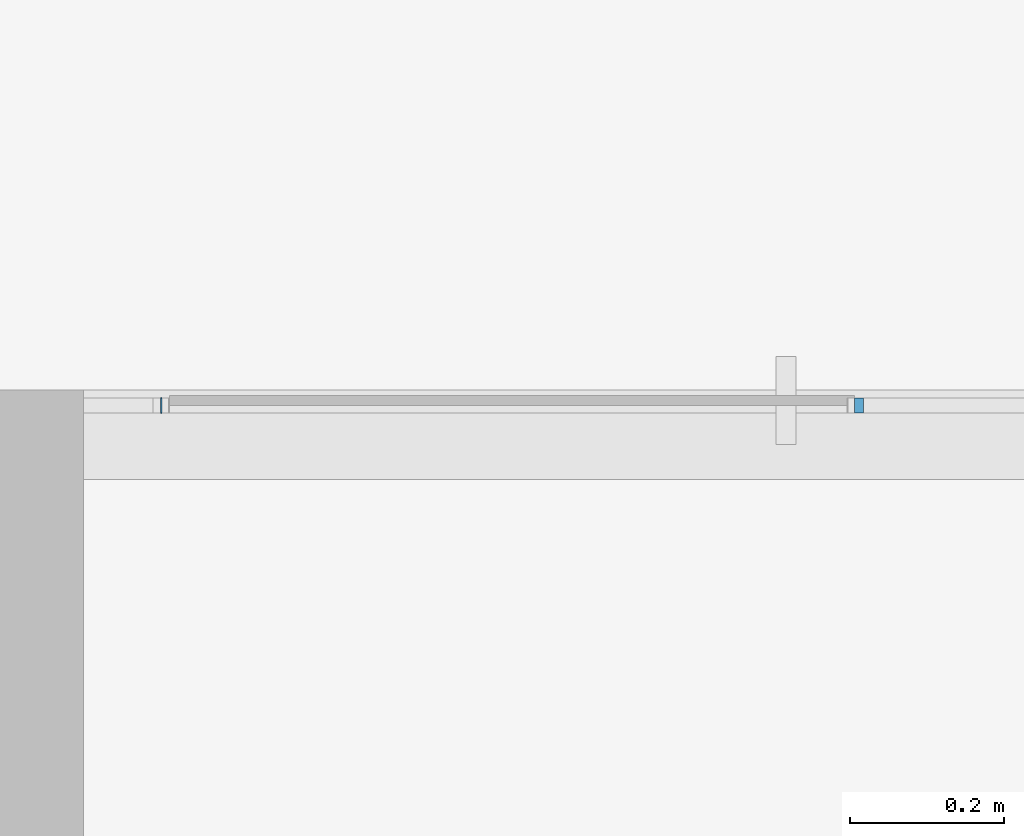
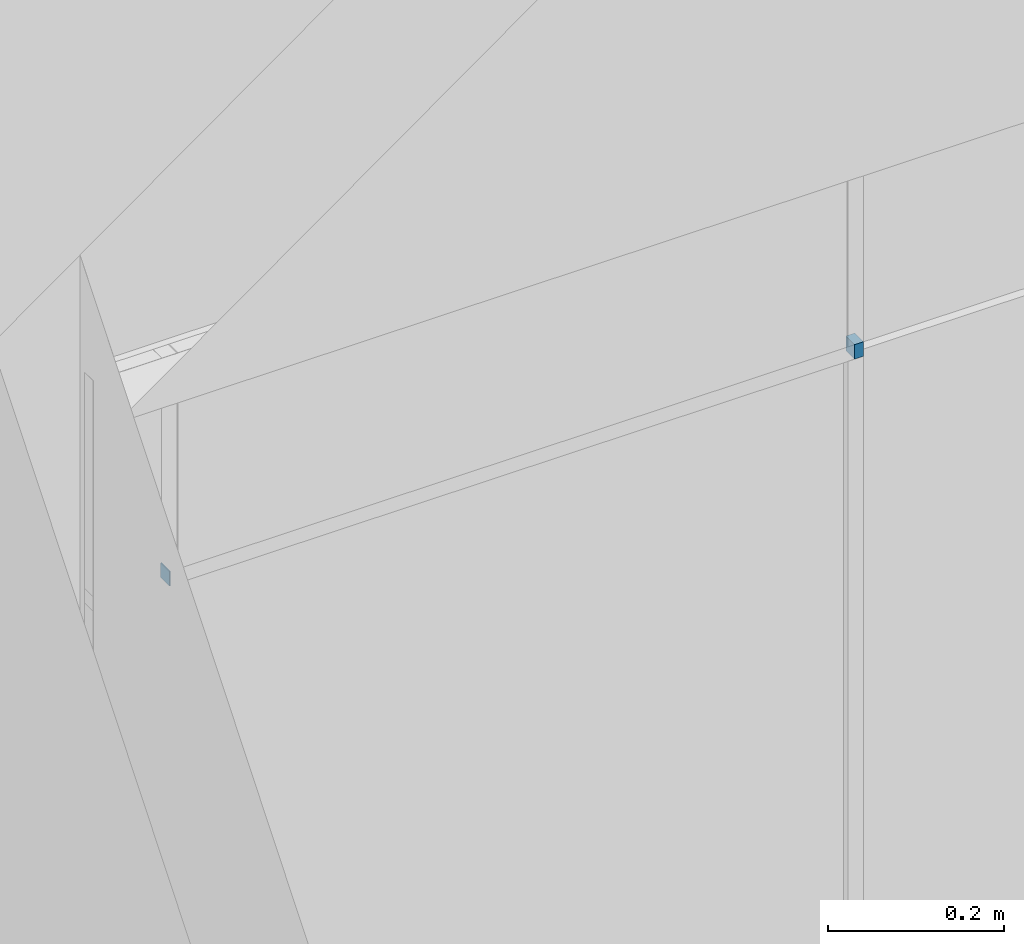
# One storey, part 13 of 66: 2 members, 1 element without a shape of its own.
"""IFC2X3 building model written with IfcOpenShell, lengths in millimetres."""

from ifc_helpers import new_model, entity, si_unit, converted_unit, derived_unit, direction, frame, origin, origin_2d_with_axis, place, context, subcontext, project, spatial, rectangle, extrude, source, transform, mapped, material, type_object, type_shapes, element, aggregate, save


model = new_model("IFC2X3")

# Units and contexts
model_context = context("Model", 3, precision=0.01, world=origin(), true_north=direction((6.12303176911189e-17, 1.0)))
body_context = subcontext(model_context, "Body", "Model", "MODEL_VIEW")
ifc_project = project(units=[si_unit("LENGTHUNIT", "METRE", prefix="MILLI"), si_unit("AREAUNIT", "SQUARE_METRE"), si_unit("VOLUMEUNIT", "CUBIC_METRE"), converted_unit("PLANEANGLEUNIT", "DEGREE", entity("IfcRatioMeasure", 0.0174532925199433), si_unit("PLANEANGLEUNIT", "RADIAN"), dimensions=[0, 0, 0, 0, 0, 0, 0]), si_unit("MASSUNIT", "GRAM", prefix="KILO"), derived_unit("MASSDENSITYUNIT", [(si_unit("MASSUNIT", "GRAM", prefix="KILO"), 1), (si_unit("LENGTHUNIT", "METRE"), -3)]), si_unit("TIMEUNIT", "SECOND"), si_unit("FREQUENCYUNIT", "HERTZ"), si_unit("THERMODYNAMICTEMPERATUREUNIT", "DEGREE_CELSIUS"), derived_unit("THERMALTRANSMITTANCEUNIT", [(si_unit("MASSUNIT", "GRAM", prefix="KILO"), 1), (si_unit("THERMODYNAMICTEMPERATUREUNIT", "KELVIN"), -1), (si_unit("TIMEUNIT", "SECOND"), -3)]), derived_unit("VOLUMETRICFLOWRATEUNIT", [(si_unit("LENGTHUNIT", "METRE"), 3), (si_unit("TIMEUNIT", "SECOND"), -1)]), si_unit("ELECTRICCURRENTUNIT", "AMPERE"), si_unit("ELECTRICVOLTAGEUNIT", "VOLT"), si_unit("POWERUNIT", "WATT"), si_unit("FORCEUNIT", "NEWTON", prefix="KILO"), si_unit("ILLUMINANCEUNIT", "LUX"), si_unit("LUMINOUSFLUXUNIT", "LUMEN"), si_unit("LUMINOUSINTENSITYUNIT", "CANDELA"), derived_unit("USERDEFINED", [(si_unit("MASSUNIT", "GRAM", prefix="KILO"), -1), (si_unit("LENGTHUNIT", "METRE"), -2), (si_unit("TIMEUNIT", "SECOND"), 3), (si_unit("LUMINOUSFLUXUNIT", "LUMEN"), 1)]), derived_unit("LINEARVELOCITYUNIT", [(si_unit("LENGTHUNIT", "METRE"), 1), (si_unit("TIMEUNIT", "SECOND"), -1)]), si_unit("PRESSUREUNIT", "PASCAL"), derived_unit("USERDEFINED", [(si_unit("LENGTHUNIT", "METRE"), -2), (si_unit("MASSUNIT", "GRAM", prefix="KILO"), 1), (si_unit("TIMEUNIT", "SECOND"), -2)])], contexts=[model_context])

# Site, building, storey
site_placement = place(None, frame((-151.875543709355, 2715.0, 0.0)))
site = spatial("IfcSite", under=ifc_project, at=site_placement, Name="Surface", CompositionType="ELEMENT")
building_placement = place(site_placement, origin())
building = spatial("IfcBuilding", under=site, at=building_placement, CompositionType="ELEMENT")
storey_placement = place(building_placement, frame((0.0, 0.0, 3350.0)))
storey = spatial("IfcBuildingStorey", under=building, at=storey_placement, Name="2 korrus", CompositionType="ELEMENT", Elevation=3350.00000000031)

# Curtain wall, members
curtain_wall_type = type_object("IfcCurtainWallType", Name="Curtain Wall:Klaassein KLS-11", PredefinedType="NOTDEFINED")
curtain_wall_placement = place(storey_placement, frame((0.0, 0.0, -3350.0)))
curtain_wall = element("IfcCurtainWall", 1, at=curtain_wall_placement, inside=storey, type_object=curtain_wall_type, Name="Curtain Wall:Klaassein KLS-11", ObjectType="Curtain Wall:Klaassein KLS-11")
ifc_material = material(Name="__Uks_hele tamm")
member_type_1 = type_object("IfcMemberType", Name="20 x 20mm", PredefinedType="MEMBER")
shared_shape_1 = source(origin(), body_context, "Body", "SweptSolid", [
    extrude(rectangle(XDim=20.0, YDim=20.0, at=origin_2d_with_axis()), frame((0.0, 0.0, -11.5475673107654), z_axis=(0.0, 0.0, 1.0), x_axis=(0.0, -1.0, 0.0)), (0.0, 0.0, 1.0), 11.5475673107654),
])
type_shapes(member_type_1, [shared_shape_1])
member_1_placement = place(storey_placement, frame((29054.0171590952, 4345.04493399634, 2090.0), z_axis=(-1.0, 0.0, 0.0), x_axis=(0.0, 0.0, 1.0)))
member_1 = element("IfcMember", 2, at=member_1_placement, type_object=member_type_1, material=ifc_material, Name="Rectangular Mullion:20 x 20mm", ObjectType="20 x 20mm", context=body_context, shape_type="MappedRepresentation", body=[
    mapped(shared_shape_1, transform((0.0, 0.0, 0.0), scale=1.0)),
])
member_type_2 = type_object("IfcMemberType", Name="20 x 20mm", PredefinedType="MEMBER")
shared_shape_2 = source(origin(), body_context, "Body", "SweptSolid", [
    extrude(rectangle(XDim=20.0, YDim=20.0, at=origin_2d_with_axis()), frame((0.0, 0.0, -1.5475673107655), z_axis=(0.0, 0.0, 1.0), x_axis=(0.0, -1.0, 0.0)), (0.0, 0.0, 1.0), 1.5475673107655),
])
type_shapes(member_type_2, [shared_shape_2])
member_2_placement = place(storey_placement, frame((28154.0171590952, 4345.04493399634, 2090.0), z_axis=(-1.0, 0.0, 0.0), x_axis=(0.0, 0.0, 1.0)))
member_2 = element("IfcMember", 3, at=member_2_placement, type_object=member_type_2, material=ifc_material, Name="Rectangular Mullion:20 x 20mm", ObjectType="20 x 20mm", context=body_context, shape_type="MappedRepresentation", body=[
    mapped(shared_shape_2, transform((0.0, 0.0, 0.0), scale=1.0)),
])
aggregate(curtain_wall, [member_1, member_2])

save(model, "model.ifc")
